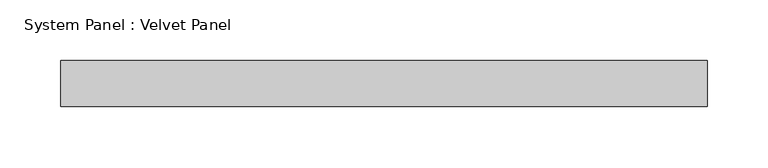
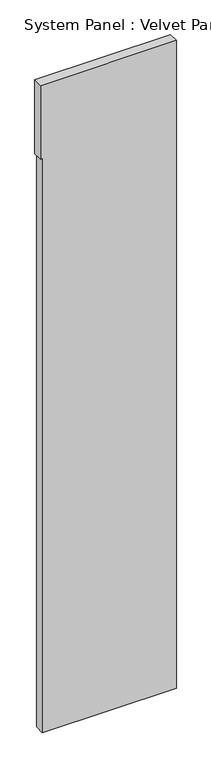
"""IFC4 building model written with IfcOpenShell, lengths in millimetres: plate geometry, System Panel : Velvet Panel."""

from ifc_helpers import new_model, si_unit, frame, origin, place, context, project, spatial, polyline, outline, extrude, source, transform, mapped, element, save


def system_panel_velvet_panel_00473839(model_context):
    return source(origin(), model_context, "Body", "SweptSolid", [
        extrude(outline(polyline([(0.0, -259.8643643), (0.0, 266.2143643), (2374.9, 266.2143643), (2679.7, 266.2143643), (2679.7, -266.2143643), (2374.9, -266.2143643), (2374.9, -259.8643643), (0.0, -259.8643643)])), frame((0.0, 0.0, 0.0), z_axis=(0.0, 1.0, 0.0), x_axis=(0.0, 0.0, 1.0)), (0.0, 0.0, 1.0), 38.1),
    ])


if __name__ == "__main__":
    model = new_model("IFC4")
    model_context = context("Model", 3, world=origin())
    ifc_project = project(units=[si_unit("LENGTHUNIT", "METRE", prefix="MILLI")], contexts=[model_context])
    site = spatial("IfcSite", under=ifc_project)
    building = spatial("IfcBuilding", under=site)
    placement = place(None, origin())
    system_panel_velvet_panel_shape = system_panel_velvet_panel_00473839(model_context)
    element("IfcPlate", 1, ObjectType="System Panel : Velvet Panel", at=placement, inside=building, context=model_context, shape_type="MappedRepresentation", body=[
        mapped(system_panel_velvet_panel_shape, transform((0.0, 0.0, 0.0), x_axis=(1.0, 0.0, 0.0), y_axis=(0.0, 1.0, 0.0), z_axis=(0.0, 0.0, 1.0))),
    ])
    save(model, "model.ifc")
